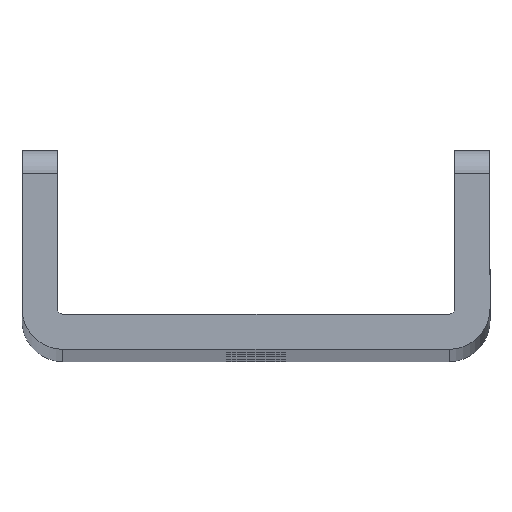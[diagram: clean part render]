
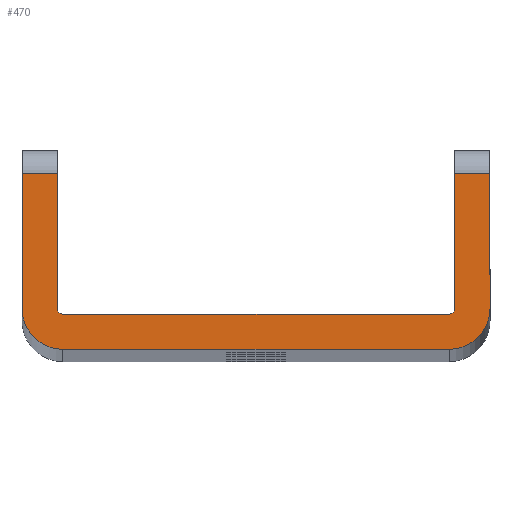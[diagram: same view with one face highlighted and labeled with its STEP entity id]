
A CAD part, top view. The second image highlights one B-rep face of the part: STEP entity #470.
In plain terms, the highlighted planar face has unit normal (0, 0, 1).
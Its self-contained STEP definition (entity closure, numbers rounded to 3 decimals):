
#12 = ORIENTED_EDGE ( 'NONE', *, *, #534, .T. ) ;
#32 = CARTESIAN_POINT ( 'NONE',  ( -16.5, 3., 600. ) ) ;
#40 = DIRECTION ( 'NONE',  ( 0., 1., 0. ) ) ;
#73 = CARTESIAN_POINT ( 'NONE',  ( -16.5, 3.5, 600. ) ) ;
#75 = EDGE_CURVE ( 'NONE', #2641, #1196, #207, .T. ) ;
#189 = EDGE_CURVE ( 'NONE', #453, #799, #1033, .T. ) ;
#207 = CIRCLE ( 'NONE', #857, 0.5 ) ;
#245 = ORIENTED_EDGE ( 'NONE', *, *, #2285, .T. ) ;
#267 = LINE ( 'NONE', #32, #321 ) ;
#301 = ORIENTED_EDGE ( 'NONE', *, *, #1664, .T. ) ;
#321 = VECTOR ( 'NONE', #1968, 1000. ) ;
#339 = DIRECTION ( 'NONE',  ( 0., 0., 1. ) ) ;
#377 = LINE ( 'NONE', #2265, #761 ) ;
#412 = CARTESIAN_POINT ( 'NONE',  ( 17., 3.5, 600. ) ) ;
#453 = VERTEX_POINT ( 'NONE', #2020 ) ;
#470 = ADVANCED_FACE ( 'NONE', ( #2263 ), #3002, .T. ) ;
#471 = CARTESIAN_POINT ( 'NONE',  ( -17., 17., 600. ) ) ;
#481 = CARTESIAN_POINT ( 'NONE',  ( -16.5, 3., 600. ) ) ;
#492 = CARTESIAN_POINT ( 'NONE',  ( 16.5, 3.5, 600. ) ) ;
#534 = EDGE_CURVE ( 'NONE', #2083, #2333, #1414, .T. ) ;
#536 = LINE ( 'NONE', #2917, #1237 ) ;
#552 = VERTEX_POINT ( 'NONE', #913 ) ;
#594 = CARTESIAN_POINT ( 'NONE',  ( -16.5, 3.5, 600. ) ) ;
#646 = ORIENTED_EDGE ( 'NONE', *, *, #2042, .T. ) ;
#755 = VECTOR ( 'NONE', #853, 1000. ) ;
#761 = VECTOR ( 'NONE', #2503, 1000. ) ;
#799 = VERTEX_POINT ( 'NONE', #1849 ) ;
#836 = DIRECTION ( 'NONE',  ( 0., -1., 0. ) ) ;
#853 = DIRECTION ( 'NONE',  ( 0., -1., 0. ) ) ;
#857 = AXIS2_PLACEMENT_3D ( 'NONE', #594, #2099, #1562 ) ;
#866 = DIRECTION ( 'NONE',  ( 1., 0., 0. ) ) ;
#901 = VERTEX_POINT ( 'NONE', #2324 ) ;
#913 = CARTESIAN_POINT ( 'NONE',  ( -17., 15., 600. ) ) ;
#1033 = LINE ( 'NONE', #3087, #755 ) ;
#1072 = AXIS2_PLACEMENT_3D ( 'NONE', #73, #2021, #3005 ) ;
#1084 = LINE ( 'NONE', #1420, #3074 ) ;
#1187 = DIRECTION ( 'NONE',  ( -1., 0., 0. ) ) ;
#1196 = VERTEX_POINT ( 'NONE', #1275 ) ;
#1237 = VECTOR ( 'NONE', #40, 1000. ) ;
#1242 = VERTEX_POINT ( 'NONE', #2910 ) ;
#1250 = DIRECTION ( 'NONE',  ( 0., 0., 1. ) ) ;
#1275 = CARTESIAN_POINT ( 'NONE',  ( -17., 3.5, 600. ) ) ;
#1369 = CARTESIAN_POINT ( 'NONE',  ( 16.5, 3.5, 600. ) ) ;
#1414 = LINE ( 'NONE', #2071, #1426 ) ;
#1420 = CARTESIAN_POINT ( 'NONE',  ( -20., 15., 600. ) ) ;
#1426 = VECTOR ( 'NONE', #2552, 1000. ) ;
#1537 = CARTESIAN_POINT ( 'NONE',  ( -16.5, 3.5, 600. ) ) ;
#1562 = DIRECTION ( 'NONE',  ( 1., 0., 0. ) ) ;
#1585 = LINE ( 'NONE', #412, #2611 ) ;
#1608 = EDGE_CURVE ( 'NONE', #1242, #901, #377, .T. ) ;
#1664 = EDGE_CURVE ( 'NONE', #799, #1242, #1683, .T. ) ;
#1683 = CIRCLE ( 'NONE', #1072, 3.5 ) ;
#1686 = AXIS2_PLACEMENT_3D ( 'NONE', #1369, #2081, #866 ) ;
#1690 = EDGE_CURVE ( 'NONE', #552, #453, #1084, .T. ) ;
#1695 = CARTESIAN_POINT ( 'NONE',  ( 20., 15., 600. ) ) ;
#1706 = DIRECTION ( 'NONE',  ( -1., 0., 0. ) ) ;
#1707 = VERTEX_POINT ( 'NONE', #2837 ) ;
#1849 = CARTESIAN_POINT ( 'NONE',  ( -20., 3.5, 600. ) ) ;
#1968 = DIRECTION ( 'NONE',  ( -1., 0., 0. ) ) ;
#2002 = EDGE_CURVE ( 'NONE', #2183, #1707, #2764, .T. ) ;
#2011 = ORIENTED_EDGE ( 'NONE', *, *, #2202, .T. ) ;
#2020 = CARTESIAN_POINT ( 'NONE',  ( -20., 15., 600. ) ) ;
#2021 = DIRECTION ( 'NONE',  ( 0., 0., 1. ) ) ;
#2042 = EDGE_CURVE ( 'NONE', #2333, #2183, #1585, .T. ) ;
#2071 = CARTESIAN_POINT ( 'NONE',  ( 17., 15., 600. ) ) ;
#2081 = DIRECTION ( 'NONE',  ( 0., 0., -1. ) ) ;
#2083 = VERTEX_POINT ( 'NONE', #1695 ) ;
#2099 = DIRECTION ( 'NONE',  ( 0., 0., -1. ) ) ;
#2120 = ORIENTED_EDGE ( 'NONE', *, *, #1608, .T. ) ;
#2132 = LINE ( 'NONE', #471, #2974 ) ;
#2165 = ORIENTED_EDGE ( 'NONE', *, *, #1690, .T. ) ;
#2183 = VERTEX_POINT ( 'NONE', #2996 ) ;
#2202 = EDGE_CURVE ( 'NONE', #1707, #2641, #267, .T. ) ;
#2232 = AXIS2_PLACEMENT_3D ( 'NONE', #1537, #339, #2779 ) ;
#2246 = CIRCLE ( 'NONE', #2873, 3.5 ) ;
#2263 = FACE_OUTER_BOUND ( 'NONE', #3104, .T. ) ;
#2265 = CARTESIAN_POINT ( 'NONE',  ( 16.5, 0., 600. ) ) ;
#2282 = ORIENTED_EDGE ( 'NONE', *, *, #189, .T. ) ;
#2285 = EDGE_CURVE ( 'NONE', #901, #2430, #2246, .T. ) ;
#2324 = CARTESIAN_POINT ( 'NONE',  ( 16.5, 0., 600. ) ) ;
#2333 = VERTEX_POINT ( 'NONE', #3080 ) ;
#2430 = VERTEX_POINT ( 'NONE', #3059 ) ;
#2450 = ORIENTED_EDGE ( 'NONE', *, *, #2625, .T. ) ;
#2503 = DIRECTION ( 'NONE',  ( 1., 0., 0. ) ) ;
#2543 = EDGE_CURVE ( 'NONE', #1196, #552, #2132, .T. ) ;
#2552 = DIRECTION ( 'NONE',  ( -1., 0., 0. ) ) ;
#2611 = VECTOR ( 'NONE', #836, 1000. ) ;
#2625 = EDGE_CURVE ( 'NONE', #2430, #2083, #536, .T. ) ;
#2641 = VERTEX_POINT ( 'NONE', #481 ) ;
#2716 = ORIENTED_EDGE ( 'NONE', *, *, #2543, .T. ) ;
#2764 = CIRCLE ( 'NONE', #1686, 0.5 ) ;
#2779 = DIRECTION ( 'NONE',  ( 1., 0., 0. ) ) ;
#2837 = CARTESIAN_POINT ( 'NONE',  ( 16.5, 3., 600. ) ) ;
#2873 = AXIS2_PLACEMENT_3D ( 'NONE', #492, #1250, #1706 ) ;
#2890 = DIRECTION ( 'NONE',  ( 0., 1., 0. ) ) ;
#2906 = ORIENTED_EDGE ( 'NONE', *, *, #75, .T. ) ;
#2910 = CARTESIAN_POINT ( 'NONE',  ( -16.5, 0., 600. ) ) ;
#2917 = CARTESIAN_POINT ( 'NONE',  ( 20., 17., 600. ) ) ;
#2974 = VECTOR ( 'NONE', #2890, 1000. ) ;
#2996 = CARTESIAN_POINT ( 'NONE',  ( 17., 3.5, 600. ) ) ;
#3002 = PLANE ( 'NONE',  #2232 ) ;
#3005 = DIRECTION ( 'NONE',  ( 1., 0., 0. ) ) ;
#3055 = ORIENTED_EDGE ( 'NONE', *, *, #2002, .T. ) ;
#3059 = CARTESIAN_POINT ( 'NONE',  ( 20., 3.5, 600. ) ) ;
#3074 = VECTOR ( 'NONE', #1187, 1000. ) ;
#3080 = CARTESIAN_POINT ( 'NONE',  ( 17., 15., 600. ) ) ;
#3087 = CARTESIAN_POINT ( 'NONE',  ( -20., 3.5, 600. ) ) ;
#3104 = EDGE_LOOP ( 'NONE', ( #2450, #12, #646, #3055, #2011, #2906, #2716, #2165, #2282, #301, #2120, #245 ) ) ;
